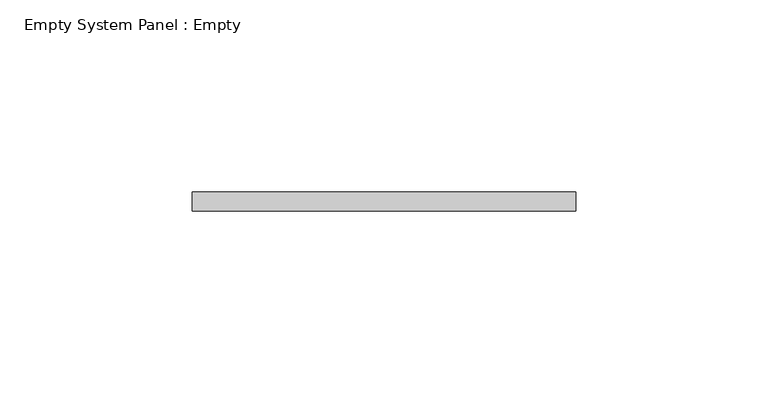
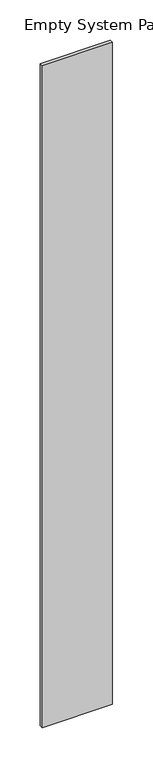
"""IFC4 building model written with IfcOpenShell, lengths in millimetres: plate geometry, Empty System Panel : Empty."""

from ifc_helpers import new_model, si_unit, origin, origin_with_axes, place, context, project, spatial, polyline, outline, extrude, source, transform, mapped, element, save


def empty_system_panel_empty_9f07cc8d(model_context):
    return source(origin(), model_context, "Body", "SweptSolid", [
        extrude(outline(polyline([(49.9277791, 97.5), (-49.9277791, 97.5), (-49.9277791, 102.5), (49.9277791, 102.5), (49.9277791, 97.5)])), origin_with_axes(), (0.0, 0.0, 1.0), 1000.0),
    ])


if __name__ == "__main__":
    model = new_model("IFC4")
    model_context = context("Model", 3, world=origin())
    ifc_project = project(units=[si_unit("LENGTHUNIT", "METRE", prefix="MILLI")], contexts=[model_context])
    site = spatial("IfcSite", under=ifc_project)
    building = spatial("IfcBuilding", under=site)
    placement = place(None, origin())
    empty_system_panel_empty_shape = empty_system_panel_empty_9f07cc8d(model_context)
    element("IfcPlate", 1, ObjectType="Empty System Panel : Empty", at=placement, inside=building, context=model_context, shape_type="MappedRepresentation", body=[
        mapped(empty_system_panel_empty_shape, transform((0.0, 0.0, 0.0), x_axis=(1.0, 0.0, 0.0), y_axis=(0.0, 1.0, 0.0), z_axis=(0.0, 0.0, 1.0))),
    ])
    save(model, "model.ifc")
